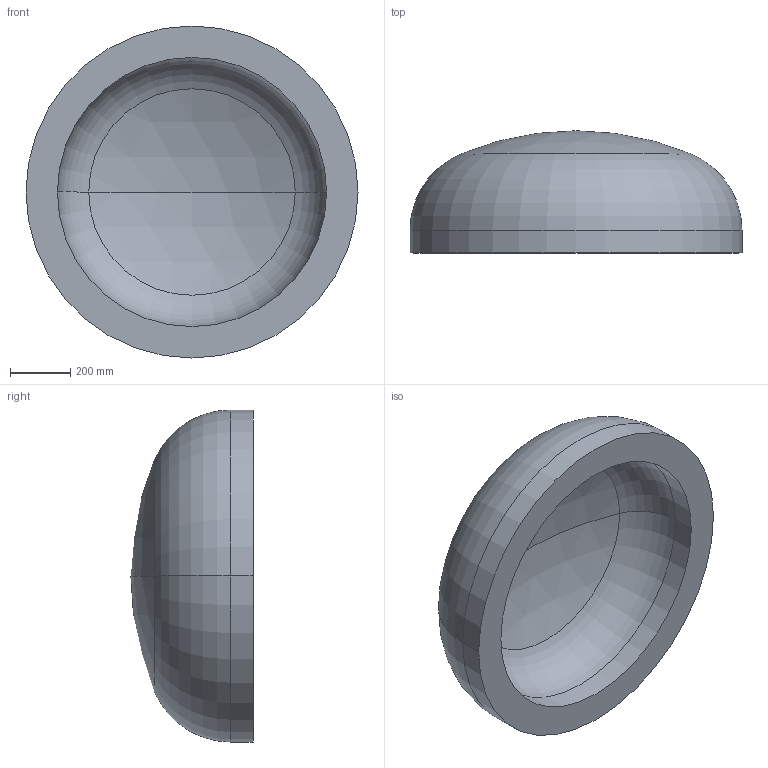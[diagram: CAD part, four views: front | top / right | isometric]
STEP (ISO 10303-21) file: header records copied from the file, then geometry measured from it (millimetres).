
FILE_DESCRIPTION (( 'STEP AP203' ), '1' );
FILE_NAME ('DIN 28013 Korbbogenform_-_Boden DIN 28013 - 1100 x 75 - I - s=104.step', '2016-07-01T09:16:39', ( '' ), ( '' ), 'SwSTEP 2.0', 'SolidWorks 2013', '' );
FILE_SCHEMA (( 'CONFIG_CONTROL_DESIGN' ));
Length unit declared in the file: millimetre
Products named in the file (1): DIN 28013 Korbbogenform_-_Boden DIN 28013 - 1100 x 75 - I - s=104
Bounding box: 1100 x 404.84 x 1100 mm (x, y, z)
Volume: 146215250.9 mm3; surface area: 3159903 mm2
Topology: 1 solids, 1 shells, 13 faces, 24 edges, 14 vertices
Faces by surface type: torus 4, cylinder 4, sphere 4, plane 1
Entity records: 407 total; most frequent: DIRECTION 72, CARTESIAN_POINT 52, ORIENTED_EDGE 48, AXIS2_PLACEMENT_3D 34, EDGE_CURVE 24, CIRCLE 20, VERTEX_POINT 14, EDGE_LOOP 14
